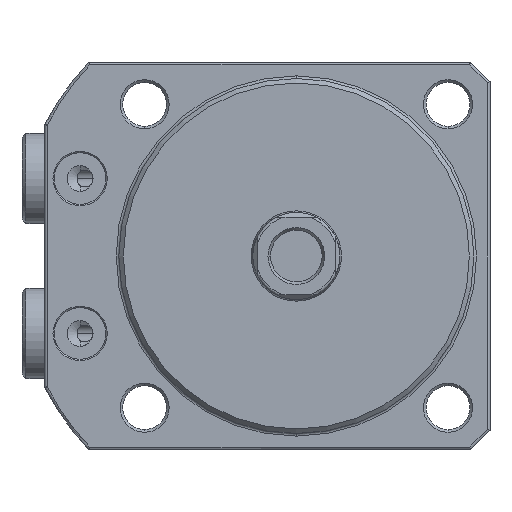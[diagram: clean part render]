
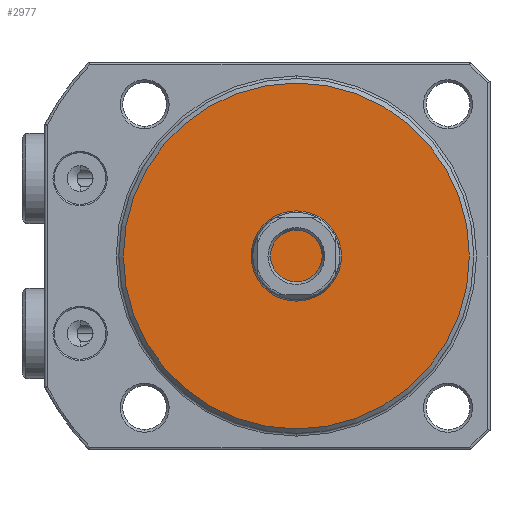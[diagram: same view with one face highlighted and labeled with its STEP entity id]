
A CAD part, front view. The second image highlights one B-rep face of the part: STEP entity #2977.
In plain terms, the highlighted planar face has unit normal (0, -1, 0) as drawn and (-1, 0, 0) by its records, which use the part's own axes.
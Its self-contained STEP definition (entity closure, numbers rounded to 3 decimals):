
#1684=PLANE('',#8204);
#2977=ADVANCED_FACE('',(#3385),#1684,.F.);
#3385=FACE_OUTER_BOUND('',#3797,.T.);
#3797=EDGE_LOOP('',(#5423));
#5423=ORIENTED_EDGE('',*,*,#7011,.T.);
#6150=VERTEX_POINT('',#13243);
#7011=EDGE_CURVE('',#6150,#6150,#7482,.T.);
#7482=CIRCLE('',#8203,26.8);
#8203=AXIS2_PLACEMENT_3D('',#13242,#9981,#9982);
#8204=AXIS2_PLACEMENT_3D('',#13244,#9983,#9984);
#9981=DIRECTION('',(-1.,0.,0.));
#9982=DIRECTION('',(0.,0.,-1.));
#9983=DIRECTION('',(1.,0.,0.));
#9984=DIRECTION('',(0.,0.,1.));
#13242=CARTESIAN_POINT('',(0.,0.,0.));
#13243=CARTESIAN_POINT('',(0.,0.,-26.8));
#13244=CARTESIAN_POINT('',(0.,0.,0.));
